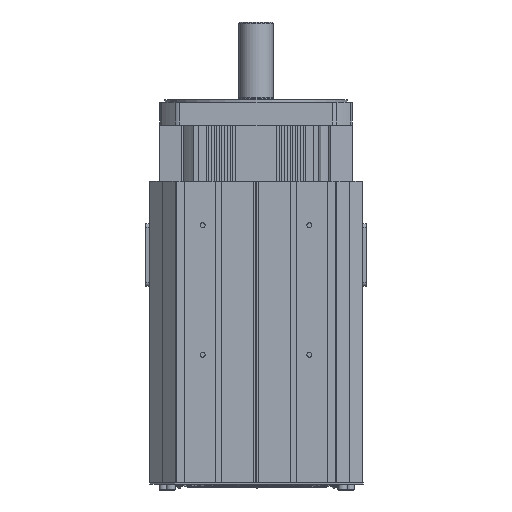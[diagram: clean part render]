
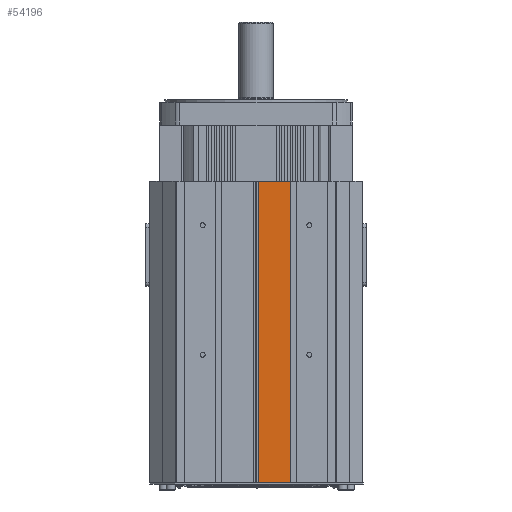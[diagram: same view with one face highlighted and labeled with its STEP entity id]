
A CAD part, front view. The second image highlights one B-rep face of the part: STEP entity #54196.
In plain terms, the highlighted planar face has unit normal (0, -1, 0).
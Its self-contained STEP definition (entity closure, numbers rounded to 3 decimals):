
#1657 = ORIENTED_EDGE ( 'NONE', *, *, #115533, .F. ) ;
#6710 = LINE ( 'NONE', #194521, #188603 ) ;
#16137 = VERTEX_POINT ( 'NONE', #83884 ) ;
#29949 = CARTESIAN_POINT ( 'NONE',  ( 10.702, -139.644, 659.5 ) ) ;
#41011 = EDGE_CURVE ( 'NONE', #16137, #69381, #193133, .T. ) ;
#46799 = ORIENTED_EDGE ( 'NONE', *, *, #41011, .F. ) ;
#47355 = EDGE_CURVE ( 'NONE', #69381, #200690, #214284, .T. ) ;
#50210 = CARTESIAN_POINT ( 'NONE',  ( 10.702, -139.644, 247.5 ) ) ;
#51641 = DIRECTION ( 'NONE',  ( 0., 0., 1. ) ) ;
#54196 = ADVANCED_FACE ( 'NONE', ( #114084 ), #123441, .F. ) ;
#69381 = VERTEX_POINT ( 'NONE', #156296 ) ;
#70882 = VECTOR ( 'NONE', #151078, 1000. ) ;
#71975 = EDGE_CURVE ( 'NONE', #200690, #122719, #101894, .T. ) ;
#83884 = CARTESIAN_POINT ( 'NONE',  ( 55.202, -139.644, 247.5 ) ) ;
#85016 = CARTESIAN_POINT ( 'NONE',  ( 167.374, -139.644, 659.5 ) ) ;
#95058 = DIRECTION ( 'NONE',  ( 0., 1., 0. ) ) ;
#99660 = VECTOR ( 'NONE', #193401, 1000. ) ;
#101894 = LINE ( 'NONE', #85016, #70882 ) ;
#106702 = ORIENTED_EDGE ( 'NONE', *, *, #71975, .F. ) ;
#114084 = FACE_OUTER_BOUND ( 'NONE', #212883, .T. ) ;
#115533 = EDGE_CURVE ( 'NONE', #122719, #16137, #6710, .T. ) ;
#122719 = VERTEX_POINT ( 'NONE', #145710 ) ;
#123441 = PLANE ( 'NONE',  #198467 ) ;
#127674 = CARTESIAN_POINT ( 'NONE',  ( 55.202, -139.644, 247.5 ) ) ;
#142931 = DIRECTION ( 'NONE',  ( -1., 0., 0. ) ) ;
#145710 = CARTESIAN_POINT ( 'NONE',  ( 55.202, -139.644, 659.5 ) ) ;
#151078 = DIRECTION ( 'NONE',  ( 1., 0., 0. ) ) ;
#156250 = ORIENTED_EDGE ( 'NONE', *, *, #47355, .F. ) ;
#156296 = CARTESIAN_POINT ( 'NONE',  ( 10.702, -139.644, 247.5 ) ) ;
#188603 = VECTOR ( 'NONE', #209020, 1000. ) ;
#191293 = CARTESIAN_POINT ( 'NONE',  ( 167.374, -139.644, 247.5 ) ) ;
#193133 = LINE ( 'NONE', #191293, #99660 ) ;
#193401 = DIRECTION ( 'NONE',  ( -1., 0., 0. ) ) ;
#194521 = CARTESIAN_POINT ( 'NONE',  ( 55.202, -139.644, 247.5 ) ) ;
#196019 = VECTOR ( 'NONE', #51641, 1000. ) ;
#198467 = AXIS2_PLACEMENT_3D ( 'NONE', #127674, #95058, #142931 ) ;
#200690 = VERTEX_POINT ( 'NONE', #29949 ) ;
#209020 = DIRECTION ( 'NONE',  ( 0., 0., -1. ) ) ;
#212883 = EDGE_LOOP ( 'NONE', ( #46799, #1657, #106702, #156250 ) ) ;
#214284 = LINE ( 'NONE', #50210, #196019 ) ;
